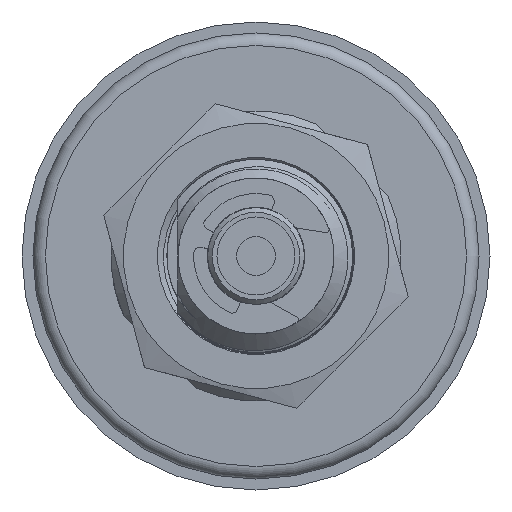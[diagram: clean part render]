
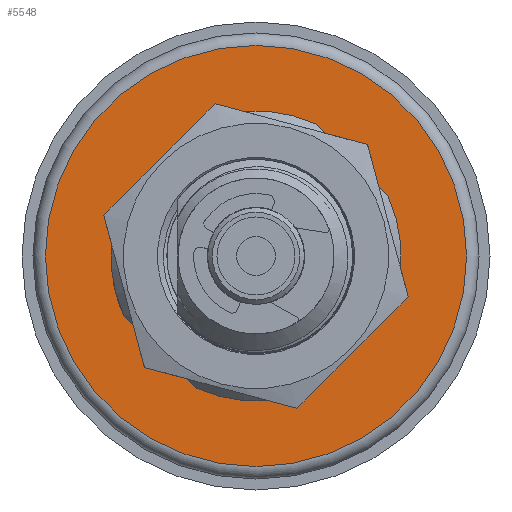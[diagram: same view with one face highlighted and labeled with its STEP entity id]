
A CAD part, left-side view. The second image highlights one B-rep face of the part: STEP entity #5548.
In plain terms, the highlighted planar face has unit normal (-1, 0, 0).
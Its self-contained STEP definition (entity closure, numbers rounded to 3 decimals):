
#58=PLANE('',#5833);
#873=CIRCLE('',#5831,9.487);
#875=CIRCLE('',#5834,17.145);
#1608=ORIENTED_EDGE('',*,*,#2490,.T.);
#1609=ORIENTED_EDGE('',*,*,#2488,.F.);
#2488=EDGE_CURVE('',#2983,#2983,#873,.T.);
#2490=EDGE_CURVE('',#2985,#2985,#875,.T.);
#2983=VERTEX_POINT('',#19709);
#2985=VERTEX_POINT('',#19714);
#3359=EDGE_LOOP('',(#1608));
#3360=EDGE_LOOP('',(#1609));
#3641=FACE_BOUND('',#3359,.T.);
#3642=FACE_BOUND('',#3360,.T.);
#5548=ADVANCED_FACE('',(#3641,#3642),#58,.T.);
#5831=AXIS2_PLACEMENT_3D('',#19708,#6472,#6473);
#5833=AXIS2_PLACEMENT_3D('',#19712,#6476,#6477);
#5834=AXIS2_PLACEMENT_3D('',#19713,#6478,#6479);
#6472=DIRECTION('',(-1.,0.,0.));
#6473=DIRECTION('',(0.,1.,0.));
#6476=DIRECTION('',(-1.,0.,0.));
#6477=DIRECTION('',(0.,1.,0.));
#6478=DIRECTION('',(-1.,0.,0.));
#6479=DIRECTION('',(0.,1.,0.));
#19708=CARTESIAN_POINT('',(10.439,0.,0.));
#19709=CARTESIAN_POINT('',(10.439,9.487,0.));
#19712=CARTESIAN_POINT('',(10.439,9.487,0.));
#19713=CARTESIAN_POINT('',(10.439,0.,0.));
#19714=CARTESIAN_POINT('',(10.439,17.145,0.));
